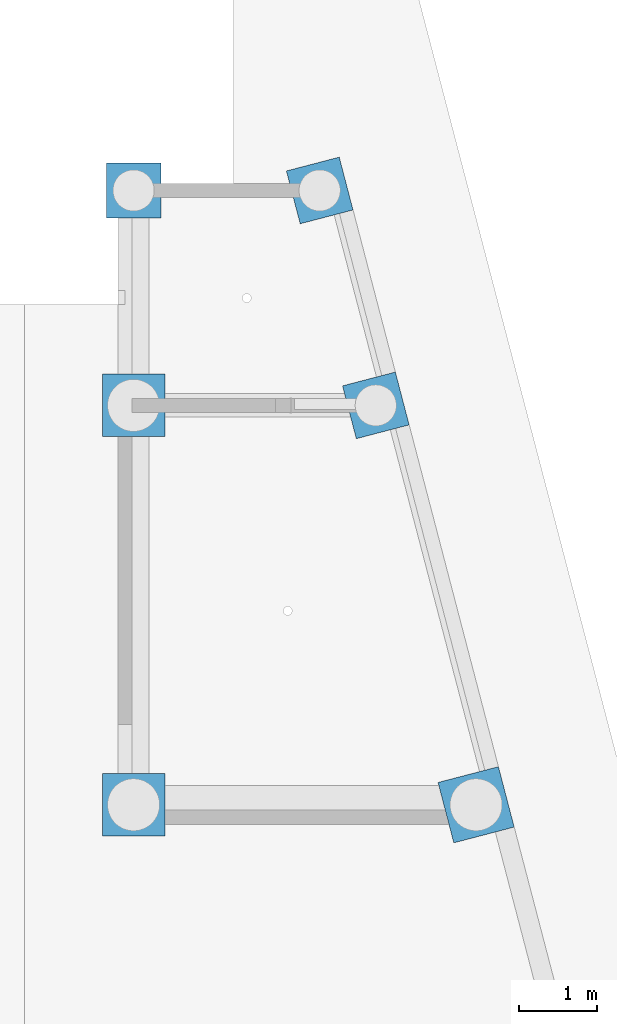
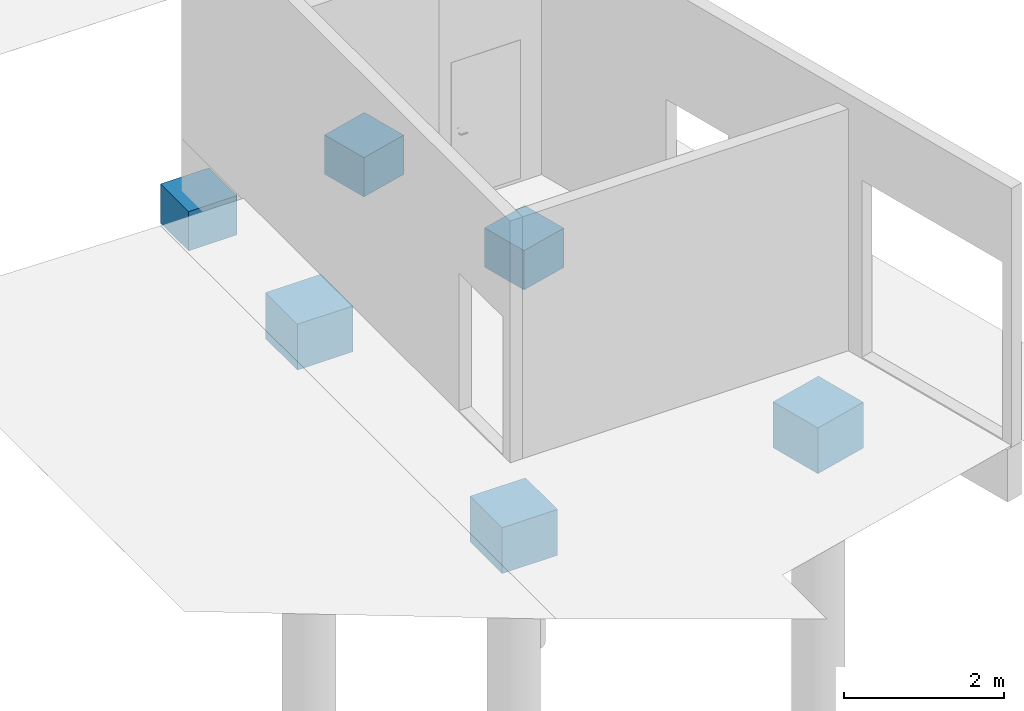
# One storey, part 5 of 5: 6 slabs.
"""IFC2X3 building model written with IfcOpenShell, lengths in centimetres."""

from ifc_helpers import new_model, entity, si_unit, converted_unit, derived_unit, direction, frame, origin, place, context, subcontext, project, spatial, faceted_brep, material, element, save


model = new_model("IFC2X3")

# Units and contexts
model_context = context("Model", 3, precision=0.001, world=origin(), true_north=direction((6.12303176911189e-17, 1.0)))
body_context = subcontext(model_context, "Body", "Model", "MODEL_VIEW")
ifc_project = project(units=[si_unit("LENGTHUNIT", "METRE", prefix="CENTI"), si_unit("AREAUNIT", "SQUARE_METRE"), si_unit("VOLUMEUNIT", "CUBIC_METRE"), converted_unit("PLANEANGLEUNIT", "DEGREE", entity("IfcRatioMeasure", 0.0174532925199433), si_unit("PLANEANGLEUNIT", "RADIAN"), dimensions=[0, 0, 0, 0, 0, 0, 0]), si_unit("MASSUNIT", "GRAM", prefix="KILO"), derived_unit("MASSDENSITYUNIT", [(si_unit("MASSUNIT", "GRAM", prefix="KILO"), 1), (si_unit("LENGTHUNIT", "METRE"), -3)]), si_unit("TIMEUNIT", "SECOND"), si_unit("FREQUENCYUNIT", "HERTZ"), si_unit("THERMODYNAMICTEMPERATUREUNIT", "DEGREE_CELSIUS"), derived_unit("THERMALTRANSMITTANCEUNIT", [(si_unit("MASSUNIT", "GRAM", prefix="KILO"), 1), (si_unit("THERMODYNAMICTEMPERATUREUNIT", "KELVIN"), -1), (si_unit("TIMEUNIT", "SECOND"), -3)]), derived_unit("VOLUMETRICFLOWRATEUNIT", [(si_unit("LENGTHUNIT", "METRE"), 3), (si_unit("TIMEUNIT", "SECOND"), -1)]), si_unit("ELECTRICCURRENTUNIT", "AMPERE"), si_unit("ELECTRICVOLTAGEUNIT", "VOLT"), si_unit("POWERUNIT", "WATT"), si_unit("FORCEUNIT", "NEWTON"), si_unit("ILLUMINANCEUNIT", "LUX"), si_unit("LUMINOUSFLUXUNIT", "LUMEN"), si_unit("LUMINOUSINTENSITYUNIT", "CANDELA"), derived_unit("USERDEFINED", [(si_unit("MASSUNIT", "GRAM", prefix="KILO"), -1), (si_unit("LENGTHUNIT", "METRE"), -2), (si_unit("TIMEUNIT", "SECOND"), 3), (si_unit("LUMINOUSFLUXUNIT", "LUMEN"), 1)]), derived_unit("LINEARVELOCITYUNIT", [(si_unit("LENGTHUNIT", "METRE"), 1), (si_unit("TIMEUNIT", "SECOND"), -1)]), si_unit("PRESSUREUNIT", "PASCAL"), derived_unit("USERDEFINED", [(si_unit("LENGTHUNIT", "METRE"), -2), (si_unit("MASSUNIT", "GRAM", prefix="KILO"), 1), (si_unit("TIMEUNIT", "SECOND"), -2)])], contexts=[model_context])

# Site, building, storey
site_placement = place(None, origin())
site = spatial("IfcSite", under=ifc_project, at=site_placement, Name="Default", CompositionType="ELEMENT")
building_placement = place(site_placement, origin())
building = spatial("IfcBuilding", under=site, at=building_placement, Name="CAGE 03", CompositionType="ELEMENT")
storey_placement = place(building_placement, frame((0.0, 0.0, -50.0)))
storey = spatial("IfcBuildingStorey", under=building, at=storey_placement, Name="+3.50", CompositionType="ELEMENT", Elevation=-50.0000000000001)

# Slabs
ifc_material = material(Name="Béton, C25/30")
slab_1_placement = place(storey_placement, frame((11013.3658201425, 4993.16066607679, -145.0)))
element("IfcSlab", 1, at=slab_1_placement, inside=storey, material=ifc_material, Name="M_Base-Rectangulaire:70x70x60ht", ObjectType="M_Base-Rectangulaire:70x70x60ht", PredefinedType="BASESLAB", context=body_context, shape_type="Brep", body=[
    faceted_brep([(70.0, 70.0, 60.0), (0.0, 70.0, 60.0), (0.0, 0.0, 60.0), (70.0, 0.0, 60.0), (0.0, 0.0, 0.0), (8.50000000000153, 35.0, 0.0), (10.6920097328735, 30.0766655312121, 0.0), (0.0, 70.0, 0.0), (12.8840194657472, 25.1533310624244, 0.0), (15.0760291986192, 20.2299965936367, 0.0), (17.2680389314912, 15.306662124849, 0.0), (22.3935302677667, 13.6412890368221, 0.0), (27.5190216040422, 11.9759159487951, 0.0), (32.6445129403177, 10.3105428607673, 0.0), (37.7700042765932, 8.64516977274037, 0.0), (70.0, 0.0, 0.0), (11.0305248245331, 42.7881545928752, 0.0), (13.5610496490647, 50.5763091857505, 0.0), (18.228286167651, 53.2709394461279, 0.0), (22.8955226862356, 55.9655697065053, 0.0), (27.5627592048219, 58.6601999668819, 0.0), (32.2299957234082, 61.3548302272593, 0.0), (70.0, 70.0, 0.0), (61.4999999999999, 35.0, 0.0), (59.3079902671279, 39.9233344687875, 0.0), (57.1159805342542, 44.8466689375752, 0.0), (54.9239708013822, 49.7700034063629, 0.0), (52.7319610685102, 54.6933378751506, 0.0), (47.6064697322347, 56.3587109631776, 0.0), (42.4809783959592, 58.0240840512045, 0.0), (37.3554870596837, 59.6894571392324, 0.0), (42.4372407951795, 11.3398000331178, 0.0), (47.1044773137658, 14.0344302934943, 0.0), (51.7717138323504, 16.7290605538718, 0.0), (56.4389503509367, 19.4236908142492, 0.0), (58.9694751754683, 27.2118454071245, 0.0), (8.4999999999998, 35.0, 5.0), (10.6920097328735, 39.9233344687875, 5.0), (12.8840194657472, 44.8466689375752, 5.0), (15.0760291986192, 49.7700034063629, 5.0), (17.2680389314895, 54.6933378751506, 5.0), (22.3935302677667, 56.3587109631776, 5.0), (27.5190216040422, 58.0240840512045, 5.0), (32.6445129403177, 59.6894571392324, 5.0), (37.7700042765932, 61.3548302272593, 5.0), (42.4372407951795, 58.6601999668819, 5.0), (47.1044773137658, 55.9655697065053, 5.0), (51.7717138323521, 53.2709394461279, 5.0), (56.4389503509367, 50.5763091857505, 5.0), (58.9694751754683, 42.7881545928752, 5.0), (61.4999999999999, 35.0, 5.0), (59.3079902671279, 30.0766655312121, 5.0), (57.1159805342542, 25.1533310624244, 5.0), (54.9239708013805, 20.2299965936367, 5.0), (52.7319610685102, 15.306662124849, 5.0), (47.6064697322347, 13.6412890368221, 5.0), (42.4809783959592, 11.9759159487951, 5.0), (37.3554870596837, 10.3105428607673, 5.0), (32.2299957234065, 8.64516977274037, 5.0), (27.5627592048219, 11.3398000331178, 5.0), (22.8955226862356, 14.0344302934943, 5.0), (18.228286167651, 16.7290605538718, 5.0), (13.561049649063, 19.4236908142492, 5.0), (11.0305248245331, 27.2118454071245, 5.0)], [[[0, 1, 2, 3]], [[4, 5, 6]], [[5, 4, 7]], [[4, 6, 8]], [[4, 8, 9]], [[4, 9, 10]], [[4, 10, 11]], [[4, 11, 12]], [[4, 12, 13]], [[4, 13, 14]], [[14, 15, 4]], [[7, 16, 5]], [[7, 17, 16]], [[7, 18, 17]], [[7, 19, 18]], [[7, 20, 19]], [[7, 21, 20]], [[21, 7, 22]], [[23, 22, 15]], [[22, 23, 24]], [[22, 24, 25]], [[22, 25, 26]], [[22, 26, 27]], [[22, 27, 28]], [[22, 28, 29]], [[22, 29, 30]], [[22, 30, 21]], [[15, 14, 31]], [[15, 31, 32]], [[15, 32, 33]], [[15, 33, 34]], [[15, 34, 35]], [[15, 35, 23]], [[2, 1, 7, 4]], [[3, 2, 4, 15]], [[0, 3, 15, 22]], [[1, 0, 22, 7]], [[36, 37, 38, 39, 40, 41, 42, 43, 44, 45, 46, 47, 48, 49, 50, 51, 52, 53, 54, 55, 56, 57, 58, 59, 60, 61, 62, 63]], [[9, 8, 62]], [[63, 6, 36]], [[63, 62, 8]], [[62, 61, 9]], [[35, 34, 52]], [[59, 58, 12]], [[36, 6, 5]], [[32, 55, 33]], [[11, 10, 60]], [[34, 33, 54]], [[35, 51, 23]], [[12, 58, 13]], [[60, 10, 61]], [[8, 6, 63]], [[57, 13, 58]], [[61, 10, 9]], [[56, 55, 32]], [[11, 59, 12]], [[54, 33, 55]], [[53, 52, 34, 54]], [[57, 14, 13]], [[31, 14, 56, 32]], [[11, 60, 59]], [[50, 23, 51]], [[57, 56, 14]], [[35, 52, 51]], [[26, 25, 48]], [[49, 24, 50]], [[49, 48, 25]], [[48, 47, 26]], [[46, 27, 47]], [[45, 28, 46]], [[50, 24, 23]], [[21, 43, 20]], [[45, 44, 29]], [[39, 38, 17, 40]], [[16, 37, 5]], [[29, 44, 30]], [[25, 24, 49]], [[43, 21, 30]], [[47, 27, 26]], [[42, 41, 19]], [[28, 27, 46]], [[16, 17, 38]], [[45, 29, 28]], [[36, 5, 37]], [[42, 20, 43]], [[40, 18, 41]], [[19, 41, 18]], [[40, 17, 18]], [[43, 30, 44]], [[42, 19, 20]], [[16, 38, 37]]]),
])
slab_2_placement = place(storey_placement, frame((11008.3658201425, 4712.66066607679, -155.0)))
element("IfcSlab", 2, at=slab_2_placement, inside=storey, material=ifc_material, Name="M_Base-Rectangulaire:80x80x70ht", ObjectType="M_Base-Rectangulaire:80x80x70ht", PredefinedType="BASESLAB", context=body_context, shape_type="Brep", body=[
    faceted_brep([(80.0, 80.0, 70.0), (0.0, 80.0, 70.0), (0.0, 0.0, 70.0), (80.0, 0.0, 70.0), (0.0, 0.0, 0.0), (6.50000000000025, 40.0, 0.0), (8.6858003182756, 34.3577989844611, 0.0), (0.0, 80.0, 0.0), (10.8716006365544, 28.7155979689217, 0.0), (13.0574009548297, 23.0733969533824, 0.0), (15.2432012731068, 17.4311959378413, 0.0), (22.2051484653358, 14.7341232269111, 0.0), (29.167095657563, 12.0370505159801, 0.0), (36.129042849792, 9.33997780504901, 0.0), (43.0909900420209, 6.64290509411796, 0.0), (80.0, 0.0, 0.0), (8.68580031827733, 45.6422010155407, 0.0), (10.8716006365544, 51.2844020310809, 0.0), (13.0574009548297, 56.9266030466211, 0.0), (15.2432012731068, 62.5688040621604, 0.0), (20.6596534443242, 65.2658767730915, 0.0), (26.0761056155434, 67.9629494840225, 0.0), (31.4925577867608, 70.6600221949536, 0.0), (36.9090099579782, 73.3570949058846, 0.0), (80.0, 80.0, 0.0), (73.4999999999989, 40.0, 0.0), (71.3141996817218, 45.6422010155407, 0.0), (69.1283993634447, 51.2844020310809, 0.0), (66.9425990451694, 56.9266030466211, 0.0), (64.7567987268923, 62.5688040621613, 0.0), (57.7948515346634, 65.2658767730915, 0.0), (50.8329043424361, 67.9629494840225, 0.0), (43.8709571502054, 70.6600221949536, 0.0), (48.5074422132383, 9.33997780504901, 0.0), (53.9238943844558, 12.0370505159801, 0.0), (59.3403465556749, 14.7341232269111, 0.0), (64.7567987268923, 17.4311959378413, 0.0), (66.9425990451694, 23.0733969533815, 0.0), (69.1283993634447, 28.7155979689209, 0.0), (71.3141996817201, 34.3577989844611, 0.0), (64.7567987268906, 17.4311959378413, 5.0), (57.7948515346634, 14.7341232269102, 5.0), (50.8329043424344, 12.0370505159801, 5.0), (43.8709571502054, 9.33997780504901, 5.0), (36.9090099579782, 6.64290509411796, 5.0), (31.4925577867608, 9.33997780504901, 5.0), (26.0761056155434, 12.0370505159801, 5.0), (20.6596534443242, 14.7341232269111, 5.0), (15.2432012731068, 17.4311959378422, 5.0), (13.0574009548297, 23.0733969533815, 5.0), (10.8716006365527, 28.7155979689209, 5.0), (9.32055531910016, 32.7193074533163, 5.0), (6.49999999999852, 40.0, 5.0), (9.32055531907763, 47.2806925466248, 5.0), (10.8716006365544, 51.2844020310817, 5.0), (13.0574009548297, 56.9266030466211, 5.0), (15.2432012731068, 62.5688040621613, 5.0), (22.2051484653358, 65.2658767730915, 5.0), (29.167095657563, 67.9629494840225, 5.0), (36.129042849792, 70.6600221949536, 5.0), (43.0909900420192, 73.3570949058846, 5.0), (48.5074422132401, 70.6600221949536, 5.0), (53.9238943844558, 67.9629494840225, 5.0), (59.3403465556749, 65.2658767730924, 5.0), (64.7567987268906, 62.5688040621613, 5.0), (66.9425990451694, 56.9266030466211, 5.0), (69.1283993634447, 51.2844020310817, 5.0), (70.6794446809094, 47.2806925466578, 5.0), (73.4999999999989, 40.0, 5.0), (70.6794446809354, 32.719307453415, 5.0), (69.1283993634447, 28.7155979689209, 5.0), (66.9425990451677, 23.0733969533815, 5.0)], [[[0, 1, 2, 3]], [[4, 5, 6]], [[5, 4, 7]], [[4, 6, 8]], [[4, 8, 9]], [[4, 9, 10]], [[4, 10, 11]], [[4, 11, 12]], [[4, 12, 13]], [[4, 13, 14]], [[14, 15, 4]], [[7, 16, 5]], [[7, 17, 16]], [[7, 18, 17]], [[7, 19, 18]], [[7, 20, 19]], [[7, 21, 20]], [[7, 22, 21]], [[7, 23, 22]], [[23, 7, 24]], [[25, 24, 15]], [[24, 25, 26]], [[24, 26, 27]], [[24, 27, 28]], [[24, 28, 29]], [[24, 29, 30]], [[24, 30, 31]], [[24, 31, 32]], [[24, 32, 23]], [[15, 14, 33]], [[15, 33, 34]], [[15, 34, 35]], [[15, 35, 36]], [[15, 36, 37]], [[15, 37, 38]], [[15, 38, 39]], [[15, 39, 25]], [[2, 1, 7, 4]], [[3, 2, 4, 15]], [[0, 3, 15, 24]], [[1, 0, 24, 7]], [[40, 41, 42, 43, 44, 45, 46, 47, 48, 49, 50, 51, 52, 53, 54, 55, 56, 57, 58, 59, 60, 61, 62, 63, 64, 65, 66, 67, 68, 69, 70, 71]], [[6, 5, 52, 51, 50, 49, 48, 10, 9, 8]], [[39, 38, 37, 36, 40, 71, 70, 69, 68, 25]], [[48, 47, 10]], [[47, 46, 11]], [[36, 35, 40]], [[42, 33, 43]], [[35, 41, 40]], [[14, 13, 44]], [[12, 11, 46]], [[47, 11, 10]], [[35, 34, 41]], [[41, 34, 42]], [[12, 45, 13]], [[14, 43, 33]], [[42, 34, 33]], [[44, 13, 45]], [[12, 46, 45]], [[14, 44, 43]], [[26, 25, 68, 67, 66, 65, 64, 29, 28, 27]], [[16, 17, 18, 19, 56, 55, 54, 53, 52, 5]], [[64, 63, 29]], [[63, 62, 30]], [[19, 20, 56]], [[58, 22, 59]], [[20, 57, 56]], [[23, 32, 60]], [[31, 30, 62]], [[63, 30, 29]], [[20, 21, 57]], [[57, 21, 58]], [[31, 61, 32]], [[23, 59, 22]], [[58, 21, 22]], [[60, 32, 61]], [[31, 62, 61]], [[23, 60, 59]]]),
])
slab_3_placement = place(storey_placement, frame((11008.3658201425, 4200.66066607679, -155.0)))
element("IfcSlab", 3, at=slab_3_placement, inside=storey, material=ifc_material, Name="M_Base-Rectangulaire:80x80x70ht", ObjectType="M_Base-Rectangulaire:80x80x70ht", PredefinedType="BASESLAB", context=body_context, shape_type="Brep", body=[
    faceted_brep([(80.0, 80.0, 70.0), (0.0, 80.0, 70.0), (0.0, 0.0, 70.0), (80.0, 0.0, 70.0), (0.0, 0.0, 0.0), (6.50000000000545, 40.0, 0.0), (8.68580031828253, 34.357798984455, 0.0), (0.0, 80.0, 0.0), (10.8716006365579, 28.7155979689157, 0.0), (13.0574009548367, 23.0733969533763, 0.0), (15.243201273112, 17.4311959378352, 0.0), (22.205148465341, 14.734123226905, 0.0), (29.1670956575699, 12.037050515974, 0.0), (36.1290428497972, 9.33997780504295, 0.0), (43.0909900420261, 6.6429050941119, 0.0), (80.0, 0.0, 0.0), (8.68580031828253, 45.6422010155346, 0.0), (10.8716006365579, 51.2844020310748, 0.0), (13.0574009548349, 56.926603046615, 0.0), (15.243201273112, 62.5688040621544, 0.0), (20.6596534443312, 65.2658767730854, 0.0), (26.0761056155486, 67.9629494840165, 0.0), (31.4925577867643, 70.6600221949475, 0.0), (36.9090099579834, 73.3570949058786, 0.0), (80.0, 80.0, 0.0), (73.5000000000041, 40.0, 0.0), (71.314199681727, 45.6422010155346, 0.0), (69.1283993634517, 51.2844020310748, 0.0), (66.9425990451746, 56.926603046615, 0.0), (64.7567987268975, 62.5688040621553, 0.0), (57.7948515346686, 65.2658767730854, 0.0), (50.8329043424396, 67.9629494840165, 0.0), (43.8709571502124, 70.6600221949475, 0.0), (48.5074422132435, 9.33997780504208, 0.0), (53.9238943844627, 12.0370505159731, 0.0), (59.3403465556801, 14.7341232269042, 0.0), (64.7567987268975, 17.4311959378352, 0.0), (66.9425990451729, 23.0733969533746, 0.0), (69.1283993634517, 28.7155979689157, 0.0), (71.314199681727, 34.357798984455, 0.0), (64.7567987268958, 17.4311959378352, 5.0), (57.7948515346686, 14.7341232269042, 5.0), (50.8329043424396, 12.0370505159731, 5.0), (43.8709571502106, 9.33997780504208, 5.0), (36.9090099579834, 6.6429050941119, 5.0), (31.4925577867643, 9.33997780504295, 5.0), (26.0761056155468, 12.037050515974, 5.0), (20.6596534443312, 14.734123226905, 5.0), (15.243201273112, 17.4311959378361, 5.0), (13.0574009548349, 23.0733969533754, 5.0), (10.8716006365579, 28.7155979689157, 5.0), (9.32055531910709, 32.7193074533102, 5.0), (6.50000000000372, 40.0, 5.0), (9.32055531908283, 47.2806925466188, 5.0), (10.8716006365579, 51.2844020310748, 5.0), (13.0574009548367, 56.9266030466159, 5.0), (15.243201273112, 62.5688040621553, 5.0), (22.205148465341, 65.2658767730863, 5.0), (29.1670956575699, 67.9629494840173, 5.0), (36.1290428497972, 70.6600221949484, 5.0), (43.0909900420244, 73.3570949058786, 5.0), (48.5074422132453, 70.6600221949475, 5.0), (53.923894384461, 67.9629494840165, 5.0), (59.3403465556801, 65.2658767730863, 5.0), (64.7567987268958, 62.5688040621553, 5.0), (66.9425990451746, 56.926603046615, 5.0), (69.1283993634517, 51.2844020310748, 5.0), (70.6794446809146, 47.2806925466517, 5.0), (73.5000000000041, 40.0, 5.0), (70.6794446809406, 32.7193074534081, 5.0), (69.1283993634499, 28.7155979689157, 5.0), (66.9425990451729, 23.0733969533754, 5.0)], [[[0, 1, 2, 3]], [[4, 5, 6]], [[5, 4, 7]], [[4, 6, 8]], [[4, 8, 9]], [[4, 9, 10]], [[4, 10, 11]], [[4, 11, 12]], [[4, 12, 13]], [[4, 13, 14]], [[14, 15, 4]], [[7, 16, 5]], [[7, 17, 16]], [[7, 18, 17]], [[7, 19, 18]], [[7, 20, 19]], [[7, 21, 20]], [[7, 22, 21]], [[7, 23, 22]], [[23, 7, 24]], [[25, 24, 15]], [[24, 25, 26]], [[24, 26, 27]], [[24, 27, 28]], [[24, 28, 29]], [[24, 29, 30]], [[24, 30, 31]], [[24, 31, 32]], [[24, 32, 23]], [[15, 14, 33]], [[15, 33, 34]], [[15, 34, 35]], [[15, 35, 36]], [[15, 36, 37]], [[15, 37, 38]], [[15, 38, 39]], [[15, 39, 25]], [[2, 1, 7, 4]], [[3, 2, 4, 15]], [[0, 3, 15, 24]], [[1, 0, 24, 7]], [[40, 41, 42, 43, 44, 45, 46, 47, 48, 49, 50, 51, 52, 53, 54, 55, 56, 57, 58, 59, 60, 61, 62, 63, 64, 65, 66, 67, 68, 69, 70, 71]], [[6, 5, 52, 51, 50, 49, 48, 10, 9, 8]], [[39, 38, 37, 36, 40, 71, 70, 69, 68, 25]], [[48, 47, 10]], [[47, 46, 11]], [[36, 35, 40]], [[42, 33, 43]], [[35, 41, 40]], [[14, 13, 44]], [[12, 11, 46]], [[47, 11, 10]], [[35, 34, 41]], [[41, 34, 42]], [[12, 45, 13]], [[14, 43, 33]], [[42, 34, 33]], [[44, 13, 45]], [[12, 46, 45]], [[14, 44, 43]], [[26, 25, 68, 67, 66, 65, 64, 29, 28, 27]], [[16, 17, 18, 19, 56, 55, 54, 53, 52, 5]], [[64, 63, 29]], [[63, 62, 30]], [[19, 20, 56]], [[58, 22, 59]], [[20, 57, 56]], [[23, 32, 60]], [[31, 30, 62]], [[63, 30, 29]], [[20, 21, 57]], [[57, 21, 58]], [[31, 61, 32]], [[23, 59, 22]], [[58, 21, 22]], [[60, 32, 61]], [[31, 62, 61]], [[23, 60, 59]]]),
])
slab_4_placement = place(storey_placement, frame((11316.2234087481, 4709.95262743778, -145.0)))
element("IfcSlab", 4, at=slab_4_placement, inside=storey, material=ifc_material, Name="M_Base-Rectangulaire:70x70x60ht", ObjectType="M_Base-Rectangulaire:70x70x60ht", PredefinedType="BASESLAB", context=body_context, shape_type="Brep", body=[
    faceted_brep([(67.7284989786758, 85.4160772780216, 60.0), (0.0, 67.728498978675, 60.0), (17.6875782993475, 0.0, 60.0), (85.4160772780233, 17.6875782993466, 60.0), (78.1876030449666, 45.3665347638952, 60.0), (17.6875782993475, 0.0, 0.0), (24.976077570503, 23.0147007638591, 0.0), (30.1015689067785, 21.3493276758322, 0.0), (35.227060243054, 19.6839545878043, 0.0), (40.3525515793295, 18.0185814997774, 0.0), (45.478042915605, 16.3532084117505, 0.0), (85.4160772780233, 17.6875782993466, 0.0), (22.784067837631, 27.9380352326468, 0.0), (20.5920581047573, 32.8613697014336, 0.0), (18.4000483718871, 37.7847041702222, 0.0), (16.2080386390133, 42.7080386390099, 0.0), (0.0, 67.728498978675, 0.0), (18.7385634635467, 50.4961932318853, 0.0), (21.2690882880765, 58.2843478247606, 0.0), (25.9363248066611, 60.978978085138, 0.0), (30.6035613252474, 63.6736083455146, 0.0), (35.2707978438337, 66.368238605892, 0.0), (39.93803436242, 69.0628688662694, 0.0), (67.7284989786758, 85.4160772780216, 0.0), (69.2080386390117, 42.7080386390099, 0.0), (67.0160289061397, 47.6313731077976, 0.0), (45.0635256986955, 67.3974957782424, 0.0), (50.189017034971, 65.7321226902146, 0.0), (55.3145083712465, 64.0667496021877, 0.0), (60.439999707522, 62.4013765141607, 0.0), (64.824019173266, 52.5547075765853, 0.0), (62.6320094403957, 57.478042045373, 0.0), (50.1452794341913, 19.0478386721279, 0.0), (54.8125159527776, 21.7424689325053, 0.0), (59.4797524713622, 24.4370991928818, 0.0), (64.1469889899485, 27.1317294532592, 0.0), (66.6775138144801, 34.9198840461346, 0.0), (16.2080386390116, 42.7080386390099, 5.0), (18.4000483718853, 47.6313731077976, 5.0), (20.5920581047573, 52.5547075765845, 5.0), (22.784067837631, 57.478042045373, 5.0), (24.9760775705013, 62.4013765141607, 5.0), (30.1015689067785, 64.0667496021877, 5.0), (35.227060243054, 65.7321226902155, 5.0), (40.3525515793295, 67.3974957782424, 5.0), (45.478042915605, 69.0628688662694, 5.0), (50.1452794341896, 66.368238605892, 5.0), (54.8125159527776, 63.6736083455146, 5.0), (59.4797524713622, 60.978978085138, 5.0), (64.1469889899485, 58.2843478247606, 5.0), (66.6775138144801, 50.4961932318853, 5.0), (69.2080386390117, 42.7080386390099, 5.0), (67.0160289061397, 37.7847041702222, 5.0), (64.824019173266, 32.8613697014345, 5.0), (62.6320094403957, 27.9380352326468, 5.0), (60.439999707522, 23.0147007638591, 5.0), (55.3145083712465, 21.3493276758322, 5.0), (50.189017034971, 19.6839545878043, 5.0), (45.0635256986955, 18.0185814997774, 5.0), (39.9380343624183, 16.3532084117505, 5.0), (35.2707978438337, 19.0478386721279, 5.0), (30.6035613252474, 21.7424689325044, 5.0), (25.9363248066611, 24.4370991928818, 5.0), (21.2690882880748, 27.1317294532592, 5.0), (18.7385634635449, 34.9198840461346, 5.0)], [[[0, 1, 2, 3, 4]], [[5, 6, 7]], [[5, 7, 8]], [[5, 8, 9]], [[5, 9, 10]], [[5, 10, 11]], [[5, 12, 6]], [[5, 13, 12]], [[5, 14, 13]], [[5, 15, 14]], [[16, 15, 5]], [[16, 17, 15]], [[16, 18, 17]], [[16, 19, 18]], [[16, 20, 19]], [[16, 21, 20]], [[16, 22, 21]], [[23, 22, 16]], [[11, 24, 23]], [[23, 24, 25]], [[23, 26, 22]], [[23, 27, 26]], [[23, 28, 27]], [[23, 29, 28]], [[23, 25, 30]], [[23, 30, 31]], [[23, 31, 29]], [[11, 10, 32]], [[11, 32, 33]], [[11, 33, 34]], [[11, 34, 35]], [[11, 35, 36]], [[11, 36, 24]], [[2, 1, 16, 5]], [[3, 2, 5, 11]], [[4, 3, 11, 23, 0]], [[1, 0, 23, 16]], [[37, 38, 39, 40, 41, 42, 43, 44, 45, 46, 47, 48, 49, 50, 51, 52, 53, 54, 55, 56, 57, 58, 59, 60, 61, 62, 63, 64]], [[12, 13, 63]], [[64, 14, 37]], [[64, 63, 13]], [[63, 62, 12]], [[36, 35, 53]], [[60, 59, 8]], [[37, 14, 15]], [[33, 56, 34]], [[7, 6, 61]], [[35, 34, 55]], [[36, 52, 24]], [[8, 59, 9]], [[61, 6, 62]], [[13, 14, 64]], [[58, 9, 59]], [[62, 6, 12]], [[57, 56, 33]], [[7, 60, 8]], [[55, 34, 56]], [[54, 53, 35, 55]], [[58, 10, 9]], [[32, 10, 57, 33]], [[7, 61, 60]], [[51, 24, 52]], [[58, 57, 10]], [[36, 53, 52]], [[31, 30, 49]], [[50, 25, 51]], [[50, 49, 30]], [[49, 48, 31]], [[47, 29, 48]], [[46, 28, 47]], [[51, 25, 24]], [[22, 44, 21]], [[46, 45, 27]], [[40, 39, 18, 41]], [[17, 38, 15]], [[27, 45, 26]], [[30, 25, 50]], [[44, 22, 26]], [[48, 29, 31]], [[43, 42, 20]], [[28, 29, 47]], [[17, 18, 39]], [[46, 27, 28]], [[37, 15, 38]], [[43, 21, 44]], [[41, 19, 42]], [[20, 42, 19]], [[41, 18, 19]], [[44, 26, 45]], [[43, 20, 21]], [[17, 39, 38]]]),
])
slab_5_placement = place(storey_placement, frame((11438.6654913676, 4191.85147906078, -155.0)))
element("IfcSlab", 5, at=slab_5_placement, inside=storey, material=ifc_material, Name="M_Base-Rectangulaire:80x80x70ht", ObjectType="M_Base-Rectangulaire:80x80x70ht", PredefinedType="BASESLAB", context=body_context, shape_type="Brep", body=[
    faceted_brep([(77.4039988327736, 97.6183740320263, 70.0), (0.0, 77.4039988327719, 70.0), (20.2143751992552, 0.0, 70.0), (97.6183740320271, 20.2143751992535, 70.0), (89.1952889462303, 52.4676831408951, 70.0), (20.2143751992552, 0.0, 0.0), (24.052388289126, 26.2403829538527, 0.0), (31.014335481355, 23.5433102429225, 0.0), (37.9762826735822, 20.8462375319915, 0.0), (44.9382298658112, 18.1491648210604, 0.0), (51.9001770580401, 15.4520921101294, 0.0), (97.6183740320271, 20.2143751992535, 0.0), (21.8665879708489, 31.8825839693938, 0.0), (19.6807876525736, 37.5247849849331, 0.0), (17.4949873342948, 43.1669860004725, 0.0), (15.3091870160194, 48.8091870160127, 0.0), (0.0, 77.4039988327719, 0.0), (17.4949873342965, 54.4513880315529, 0.0), (19.6807876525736, 60.0935890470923, 0.0), (21.8665879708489, 65.7357900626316, 0.0), (24.052388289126, 71.3779910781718, 0.0), (29.4688404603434, 74.0750637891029, 0.0), (34.8852926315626, 76.7721365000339, 0.0), (40.30174480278, 79.469209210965, 0.0), (45.7181969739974, 82.166281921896, 0.0), (77.4039988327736, 97.6183740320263, 0.0), (82.3091870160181, 48.8091870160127, 0.0), (80.123386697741, 54.4513880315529, 0.0), (52.6801441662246, 79.469209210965, 0.0), (59.6420913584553, 76.7721365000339, 0.0), (66.6040385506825, 74.0750637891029, 0.0), (73.5659857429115, 71.3779910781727, 0.0), (77.9375863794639, 60.0935890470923, 0.0), (75.7517860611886, 65.7357900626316, 0.0), (57.3166292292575, 18.1491648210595, 0.0), (62.7330814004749, 20.8462375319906, 0.0), (68.1495335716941, 23.5433102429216, 0.0), (73.5659857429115, 26.2403829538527, 0.0), (75.7517860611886, 31.882583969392, 0.0), (77.9375863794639, 37.5247849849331, 0.0), (80.1233866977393, 43.1669860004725, 0.0), (73.5659857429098, 26.2403829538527, 5.0), (66.6040385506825, 23.5433102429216, 5.0), (59.6420913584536, 20.8462375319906, 5.0), (52.6801441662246, 18.1491648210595, 5.0), (45.7181969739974, 15.4520921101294, 5.0), (40.3017448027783, 18.1491648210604, 5.0), (34.8852926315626, 20.8462375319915, 5.0), (29.4688404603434, 23.5433102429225, 5.0), (24.052388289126, 26.2403829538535, 5.0), (21.8665879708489, 31.8825839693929, 5.0), (19.6807876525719, 37.5247849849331, 5.0), (18.1297423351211, 41.5284944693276, 5.0), (15.3091870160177, 48.8091870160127, 5.0), (18.1297423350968, 56.0898795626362, 5.0), (19.6807876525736, 60.0935890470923, 5.0), (21.8665879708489, 65.7357900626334, 5.0), (24.052388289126, 71.3779910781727, 5.0), (31.014335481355, 74.0750637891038, 5.0), (37.9762826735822, 76.7721365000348, 5.0), (44.9382298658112, 79.469209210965, 5.0), (51.9001770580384, 82.166281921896, 5.0), (57.3166292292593, 79.469209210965, 5.0), (62.7330814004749, 76.7721365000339, 5.0), (68.1495335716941, 74.0750637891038, 5.0), (73.5659857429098, 71.3779910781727, 5.0), (75.7517860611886, 65.7357900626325, 5.0), (77.9375863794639, 60.0935890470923, 5.0), (79.4886316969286, 56.0898795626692, 5.0), (82.3091870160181, 48.8091870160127, 5.0), (79.4886316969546, 41.5284944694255, 5.0), (77.9375863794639, 37.5247849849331, 5.0), (75.7517860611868, 31.8825839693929, 5.0)], [[[0, 1, 2, 3, 4]], [[5, 6, 7]], [[5, 7, 8]], [[5, 8, 9]], [[5, 9, 10]], [[5, 10, 11]], [[5, 12, 6]], [[5, 13, 12]], [[5, 14, 13]], [[5, 15, 14]], [[16, 15, 5]], [[16, 17, 15]], [[16, 18, 17]], [[16, 19, 18]], [[16, 20, 19]], [[16, 21, 20]], [[16, 22, 21]], [[16, 23, 22]], [[16, 24, 23]], [[25, 24, 16]], [[11, 26, 25]], [[25, 26, 27]], [[25, 28, 24]], [[25, 29, 28]], [[25, 30, 29]], [[25, 31, 30]], [[25, 27, 32]], [[25, 32, 33]], [[25, 33, 31]], [[11, 10, 34]], [[11, 34, 35]], [[11, 35, 36]], [[11, 36, 37]], [[11, 37, 38]], [[11, 38, 39]], [[11, 39, 40]], [[11, 40, 26]], [[2, 1, 16, 5]], [[3, 2, 5, 11]], [[4, 3, 11, 25, 0]], [[1, 0, 25, 16]], [[41, 42, 43, 44, 45, 46, 47, 48, 49, 50, 51, 52, 53, 54, 55, 56, 57, 58, 59, 60, 61, 62, 63, 64, 65, 66, 67, 68, 69, 70, 71, 72]], [[14, 15, 53, 52, 51, 50, 49, 6, 12, 13]], [[40, 39, 38, 37, 41, 72, 71, 70, 69, 26]], [[49, 48, 6]], [[48, 47, 7]], [[37, 36, 41]], [[43, 34, 44]], [[36, 42, 41]], [[10, 9, 45]], [[8, 7, 47]], [[48, 7, 6]], [[36, 35, 42]], [[42, 35, 43]], [[8, 46, 9]], [[10, 44, 34]], [[43, 35, 34]], [[45, 9, 46]], [[8, 47, 46]], [[10, 45, 44]], [[27, 26, 69, 68, 67, 66, 65, 31, 33, 32]], [[17, 18, 19, 20, 57, 56, 55, 54, 53, 15]], [[65, 64, 31]], [[64, 63, 30]], [[20, 21, 57]], [[59, 23, 60]], [[21, 58, 57]], [[24, 28, 61]], [[29, 30, 63]], [[64, 30, 31]], [[21, 22, 58]], [[58, 22, 59]], [[29, 62, 28]], [[24, 60, 23]], [[59, 22, 23]], [[61, 28, 62]], [[29, 63, 62]], [[24, 61, 60]]]),
])
slab_6_placement = place(storey_placement, frame((11244.275441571, 4985.45262743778, -145.0)))
element("IfcSlab", 6, at=slab_6_placement, inside=storey, material=ifc_material, Name="M_Base-Rectangulaire:70x70x60ht", ObjectType="M_Base-Rectangulaire:70x70x60ht", PredefinedType="BASESLAB", context=body_context, shape_type="Brep", body=[
    faceted_brep([(67.7284989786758, 85.4160772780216, 60.0), (0.0, 67.728498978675, 60.0), (17.6875782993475, 0.0, 60.0), (85.4160772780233, 17.6875782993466, 60.0), (76.531493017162, 51.7080386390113, 60.0), (17.6875782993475, 0.0, 0.0), (24.976077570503, 23.0147007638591, 0.0), (30.1015689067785, 21.3493276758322, 0.0), (35.227060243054, 19.6839545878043, 0.0), (40.3525515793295, 18.0185814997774, 0.0), (45.478042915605, 16.3532084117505, 0.0), (85.4160772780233, 17.6875782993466, 0.0), (22.784067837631, 27.9380352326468, 0.0), (20.5920581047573, 32.8613697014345, 0.0), (18.4000483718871, 37.7847041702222, 0.0), (16.2080386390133, 42.7080386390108, 0.0), (0.0, 67.728498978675, 0.0), (18.7385634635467, 50.4961932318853, 0.0), (21.2690882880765, 58.2843478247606, 0.0), (25.9363248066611, 60.978978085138, 0.0), (30.6035613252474, 63.6736083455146, 0.0), (35.2707978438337, 66.3682386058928, 0.0), (39.93803436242, 69.0628688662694, 0.0), (67.7284989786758, 85.4160772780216, 0.0), (69.2080386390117, 42.7080386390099, 0.0), (67.0160289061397, 47.6313731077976, 0.0), (45.0635256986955, 67.3974957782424, 0.0), (50.189017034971, 65.7321226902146, 0.0), (55.3145083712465, 64.0667496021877, 0.0), (60.439999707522, 62.4013765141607, 0.0), (64.824019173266, 52.5547075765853, 0.0), (62.632009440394, 57.4780420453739, 0.0), (50.1452794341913, 19.0478386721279, 0.0), (54.8125159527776, 21.7424689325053, 0.0), (59.4797524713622, 24.4370991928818, 0.0), (64.1469889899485, 27.1317294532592, 0.0), (66.6775138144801, 34.9198840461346, 0.0), (16.2080386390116, 42.7080386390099, 5.0), (18.4000483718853, 47.6313731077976, 5.0), (20.5920581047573, 52.5547075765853, 5.0), (22.784067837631, 57.478042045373, 5.0), (24.9760775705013, 62.4013765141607, 5.0), (30.1015689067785, 64.0667496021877, 5.0), (35.227060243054, 65.7321226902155, 5.0), (40.3525515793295, 67.3974957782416, 5.0), (45.478042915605, 69.0628688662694, 5.0), (50.1452794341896, 66.3682386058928, 5.0), (54.8125159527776, 63.6736083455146, 5.0), (59.4797524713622, 60.9789780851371, 5.0), (64.1469889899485, 58.2843478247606, 5.0), (66.6775138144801, 50.4961932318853, 5.0), (69.2080386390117, 42.7080386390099, 5.0), (67.0160289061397, 37.7847041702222, 5.0), (64.824019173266, 32.8613697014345, 5.0), (62.632009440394, 27.9380352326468, 5.0), (60.439999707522, 23.0147007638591, 5.0), (55.3145083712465, 21.3493276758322, 5.0), (50.189017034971, 19.6839545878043, 5.0), (45.0635256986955, 18.0185814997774, 5.0), (39.9380343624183, 16.3532084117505, 5.0), (35.2707978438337, 19.0478386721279, 5.0), (30.6035613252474, 21.7424689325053, 5.0), (25.9363248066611, 24.4370991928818, 5.0), (21.2690882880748, 27.1317294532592, 5.0), (18.7385634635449, 34.9198840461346, 5.0)], [[[0, 1, 2, 3, 4]], [[5, 6, 7]], [[5, 7, 8]], [[5, 8, 9]], [[5, 9, 10]], [[5, 10, 11]], [[5, 12, 6]], [[5, 13, 12]], [[5, 14, 13]], [[5, 15, 14]], [[16, 15, 5]], [[16, 17, 15]], [[16, 18, 17]], [[16, 19, 18]], [[16, 20, 19]], [[16, 21, 20]], [[16, 22, 21]], [[23, 22, 16]], [[11, 24, 23]], [[23, 24, 25]], [[23, 26, 22]], [[23, 27, 26]], [[23, 28, 27]], [[23, 29, 28]], [[23, 25, 30]], [[23, 30, 31]], [[23, 31, 29]], [[11, 10, 32]], [[11, 32, 33]], [[11, 33, 34]], [[11, 34, 35]], [[11, 35, 36]], [[11, 36, 24]], [[2, 1, 16, 5]], [[3, 2, 5, 11]], [[4, 3, 11, 23, 0]], [[1, 0, 23, 16]], [[37, 38, 39, 40, 41, 42, 43, 44, 45, 46, 47, 48, 49, 50, 51, 52, 53, 54, 55, 56, 57, 58, 59, 60, 61, 62, 63, 64]], [[12, 13, 63]], [[64, 14, 37]], [[64, 63, 13]], [[63, 62, 12]], [[36, 35, 53]], [[60, 59, 8]], [[37, 14, 15]], [[33, 56, 34]], [[7, 6, 61]], [[35, 34, 55]], [[36, 52, 24]], [[8, 59, 9]], [[61, 6, 62]], [[13, 14, 64]], [[58, 9, 59]], [[62, 6, 12]], [[57, 56, 33]], [[7, 60, 8]], [[55, 34, 56]], [[54, 53, 35, 55]], [[58, 10, 9]], [[32, 10, 57, 33]], [[7, 61, 60]], [[51, 24, 52]], [[58, 57, 10]], [[36, 53, 52]], [[31, 30, 49]], [[50, 25, 51]], [[50, 49, 30]], [[49, 48, 31]], [[47, 29, 48]], [[46, 28, 47]], [[51, 25, 24]], [[22, 44, 21]], [[46, 45, 27]], [[40, 39, 18, 41]], [[17, 38, 15]], [[27, 45, 26]], [[30, 25, 50]], [[44, 22, 26]], [[48, 29, 31]], [[43, 42, 20]], [[28, 29, 47]], [[17, 18, 39]], [[46, 27, 28]], [[37, 15, 38]], [[43, 21, 44]], [[41, 19, 42]], [[20, 42, 19]], [[41, 18, 19]], [[44, 26, 45]], [[43, 20, 21]], [[17, 39, 38]]]),
])

save(model, "model.ifc")
